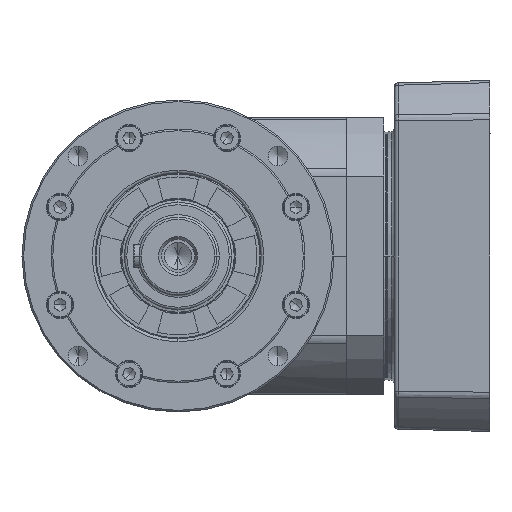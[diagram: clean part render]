
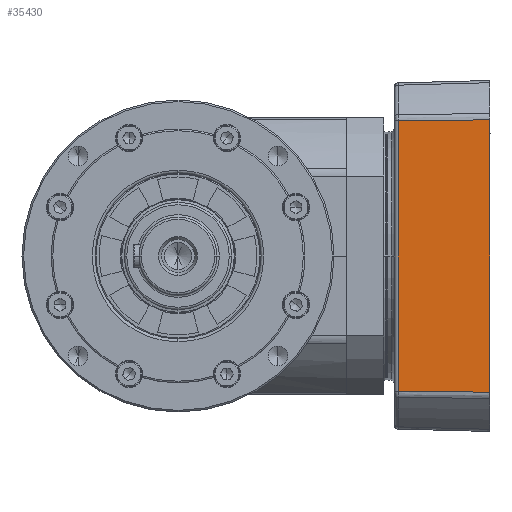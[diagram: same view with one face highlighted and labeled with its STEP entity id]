
A CAD part, left-side view. The second image highlights one B-rep face of the part: STEP entity #35430.
In plain terms, the highlighted planar face has unit normal (-1, 0.026, 0) as drawn and (-0.026, 1, 0) by its records, which use the part's own axes.
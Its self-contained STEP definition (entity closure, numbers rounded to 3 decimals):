
#909 = VERTEX_POINT ( 'NONE', #77036 ) ;
#1984 = CARTESIAN_POINT ( 'NONE',  ( 29., 90., 69.822 ) ) ;
#3953 = CARTESIAN_POINT ( 'NONE',  ( -18.052, 88.768, 71.589 ) ) ;
#5352 = LINE ( 'NONE', #19409, #67832 ) ;
#6200 = ORIENTED_EDGE ( 'NONE', *, *, #81403, .F. ) ;
#8925 = PLANE ( 'NONE',  #11045 ) ;
#10508 = CARTESIAN_POINT ( 'NONE',  ( -18.052, 88.768, -69.379 ) ) ;
#11045 = AXIS2_PLACEMENT_3D ( 'NONE', #16996, #40242, #34295 ) ;
#12811 = VECTOR ( 'NONE', #105482, 1000. ) ;
#16996 = CARTESIAN_POINT ( 'NONE',  ( 29., 90., 71.589 ) ) ;
#19405 = EDGE_CURVE ( 'NONE', #74367, #909, #5352, .T. ) ;
#19409 = CARTESIAN_POINT ( 'NONE',  ( 29., 90., 71.589 ) ) ;
#34295 = DIRECTION ( 'NONE',  ( -1., -0.026, 0. ) ) ;
#34915 = DIRECTION ( 'NONE',  ( -1., -0.026, -0.009 ) ) ;
#35430 = ADVANCED_FACE ( 'NONE', ( #66172 ), #8925, .T. ) ;
#38160 = ORIENTED_EDGE ( 'NONE', *, *, #19405, .T. ) ;
#39679 = VERTEX_POINT ( 'NONE', #55234 ) ;
#40242 = DIRECTION ( 'NONE',  ( -0.026, 1., 0. ) ) ;
#55234 = CARTESIAN_POINT ( 'NONE',  ( -18.052, 88.768, -69.379 ) ) ;
#56107 = DIRECTION ( 'NONE',  ( -1., -0.026, 0.009 ) ) ;
#61214 = LINE ( 'NONE', #3953, #12811 ) ;
#62120 = ORIENTED_EDGE ( 'NONE', *, *, #87253, .F. ) ;
#63732 = CARTESIAN_POINT ( 'NONE',  ( 29., 90., 69.822 ) ) ;
#65492 = VERTEX_POINT ( 'NONE', #95861 ) ;
#66172 = FACE_OUTER_BOUND ( 'NONE', #94692, .T. ) ;
#67832 = VECTOR ( 'NONE', #85341, 1000. ) ;
#74367 = VERTEX_POINT ( 'NONE', #63732 ) ;
#75994 = LINE ( 'NONE', #1984, #95366 ) ;
#77036 = CARTESIAN_POINT ( 'NONE',  ( 29., 90., -69.822 ) ) ;
#81403 = EDGE_CURVE ( 'NONE', #65492, #39679, #61214, .T. ) ;
#84572 = LINE ( 'NONE', #10508, #93742 ) ;
#85341 = DIRECTION ( 'NONE',  ( 0., 0., -1. ) ) ;
#87253 = EDGE_CURVE ( 'NONE', #74367, #65492, #75994, .T. ) ;
#93742 = VECTOR ( 'NONE', #56107, 1000. ) ;
#94692 = EDGE_LOOP ( 'NONE', ( #6200, #62120, #38160, #101605 ) ) ;
#95366 = VECTOR ( 'NONE', #34915, 1000. ) ;
#95861 = CARTESIAN_POINT ( 'NONE',  ( -18.052, 88.768, 69.379 ) ) ;
#101605 = ORIENTED_EDGE ( 'NONE', *, *, #103140, .T. ) ;
#103140 = EDGE_CURVE ( 'NONE', #909, #39679, #84572, .T. ) ;
#105482 = DIRECTION ( 'NONE',  ( 0., 0., -1. ) ) ;
